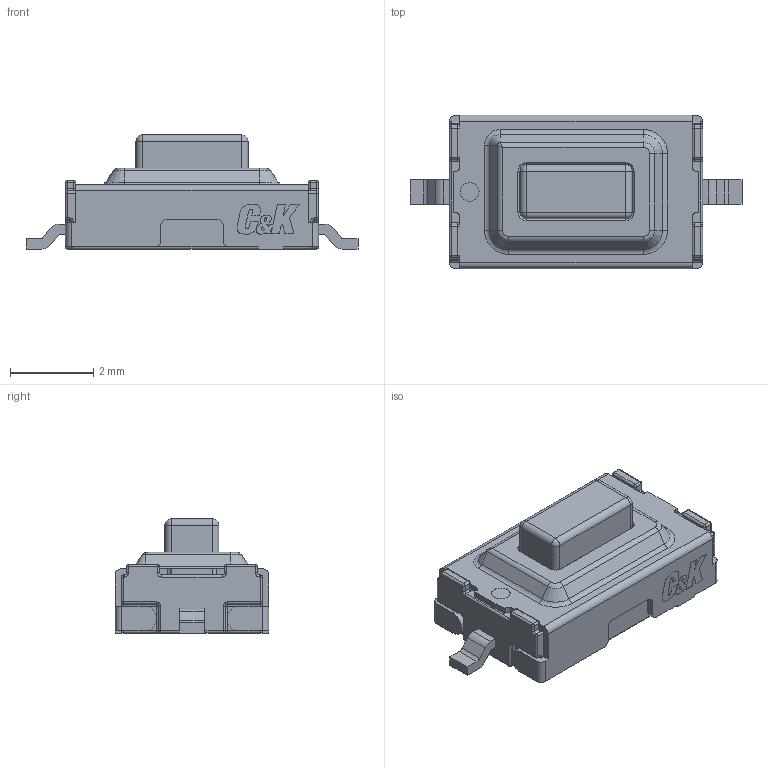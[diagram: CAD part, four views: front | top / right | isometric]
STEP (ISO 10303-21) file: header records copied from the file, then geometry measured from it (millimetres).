
FILE_DESCRIPTION(/* description */ (''),/* implementation_level */ '2;1');
FILE_NAME(/* name */ 'C:\Users\Ricardo\Documents\Upverter 3D models\C&K Components\PTS636 SKG25 SMTR LFS\C&K Components PTS636 SKG25 SMTR LFS.stp',/* time_stamp */ '2020-06-04T06:44:34-04:00',/* author */ ('Ricardo'),/* organization */ (''),/* preprocessor_version */ 'ST-DEVELOPER v18.1',/* originating_system */ 'Autodesk Inventor 2021',/* authorisation */ '');
FILE_SCHEMA (('AUTOMOTIVE_DESIGN { 1 0 10303 214 3 1 1 }'));
Length unit declared in the file: millimetre
Products named in the file (6): C&K Components PTS636 SKG25 SMTR LFS; shield; body; button; terminals; logo
Assembly tree (5 placements, depth 2):
  C&K Components PTS636 SKG25 SMTR LFS
    shield
    body
    button
    terminals
    logo
Bounding box: 8 x 3.7 x 2.75 mm (x, y, z)
Volume: 41.6 mm3; surface area: 170.8 mm2
Topology: 8 solids, 8 shells, 447 faces, 1092 edges, 661 vertices
Faces by surface type: cylinder 154, plane 149, bspline 64, sphere 40, torus 32, cone 8
Full cylindrical faces by diameter (mm): 0.45 x1
Entity records: 13595 total; most frequent: CARTESIAN_POINT 2990, ORIENTED_EDGE 2182, DIRECTION 2150, EDGE_CURVE 1091, AXIS2_PLACEMENT_3D 768, VERTEX_POINT 661, LINE 614, VECTOR 614
